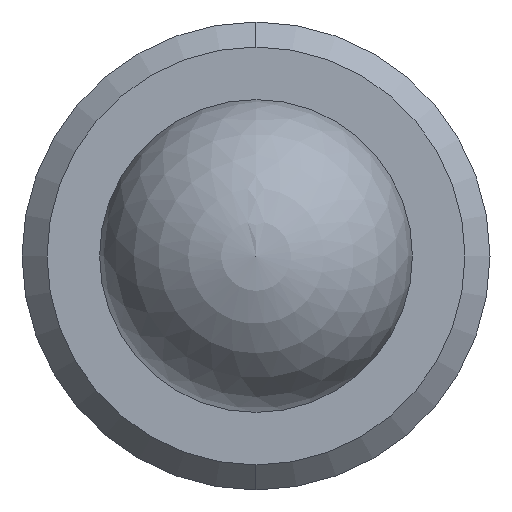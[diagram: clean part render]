
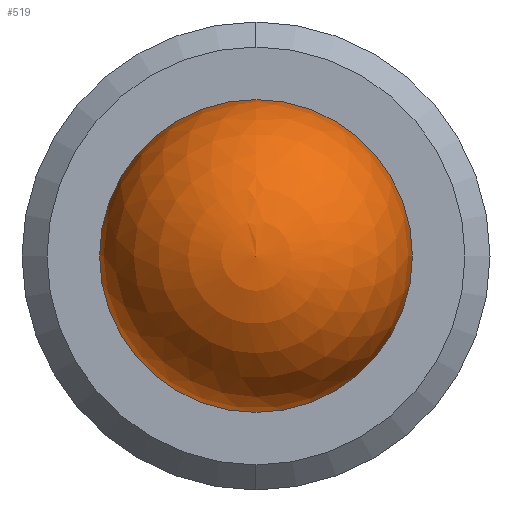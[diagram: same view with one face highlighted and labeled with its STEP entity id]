
A CAD part, left-side view. The second image highlights one B-rep face of the part: STEP entity #519.
In plain terms, the highlighted spherical face has radius 1.587 mm.
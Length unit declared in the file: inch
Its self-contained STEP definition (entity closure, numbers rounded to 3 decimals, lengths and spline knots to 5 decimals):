
#3 = CARTESIAN_POINT ( 'NONE',  ( 0., 0., 0. ) ) ;
#10 = EDGE_CURVE ( 'NONE', #182, #115, #81, .T. ) ;
#48 = DIRECTION ( 'NONE',  ( 1., 0., 0. ) ) ;
#65 = CIRCLE ( 'NONE', #219, 0.0625 ) ;
#81 = CIRCLE ( 'NONE', #336, 0.0625 ) ;
#99 = EDGE_CURVE ( 'NONE', #182, #115, #65, .T. ) ;
#107 = CARTESIAN_POINT ( 'NONE',  ( 0., 0.0625, 0. ) ) ;
#115 = VERTEX_POINT ( 'NONE', #530 ) ;
#182 = VERTEX_POINT ( 'NONE', #107 ) ;
#219 = AXIS2_PLACEMENT_3D ( 'NONE', #3, #488, #447 ) ;
#238 = DIRECTION ( 'NONE',  ( -1., 0., 0. ) ) ;
#298 = FACE_OUTER_BOUND ( 'NONE', #424, .T. ) ;
#299 = SPHERICAL_SURFACE ( 'NONE', #560, 0.0625 ) ;
#336 = AXIS2_PLACEMENT_3D ( 'NONE', #604, #48, #628 ) ;
#344 = ORIENTED_EDGE ( 'NONE', *, *, #10, .F. ) ;
#415 = CARTESIAN_POINT ( 'NONE',  ( 0., 0., 0. ) ) ;
#424 = EDGE_LOOP ( 'NONE', ( #344, #440 ) ) ;
#440 = ORIENTED_EDGE ( 'NONE', *, *, #99, .T. ) ;
#447 = DIRECTION ( 'NONE',  ( 0., 0., 1. ) ) ;
#488 = DIRECTION ( 'NONE',  ( -1., 0., 0. ) ) ;
#519 = ADVANCED_FACE ( 'NONE', ( #298 ), #299, .T. ) ;
#530 = CARTESIAN_POINT ( 'NONE',  ( 0., -0.0625, 0. ) ) ;
#560 = AXIS2_PLACEMENT_3D ( 'NONE', #415, #238, #591 ) ;
#591 = DIRECTION ( 'NONE',  ( 0., 0., 1. ) ) ;
#604 = CARTESIAN_POINT ( 'NONE',  ( 0., 0., 0. ) ) ;
#628 = DIRECTION ( 'NONE',  ( 0., 0., -1. ) ) ;
